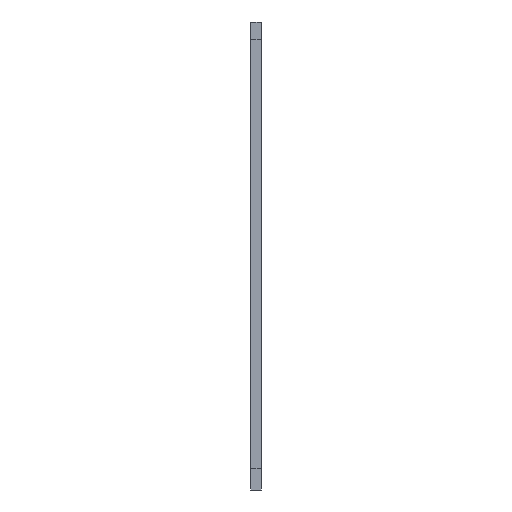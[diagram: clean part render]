
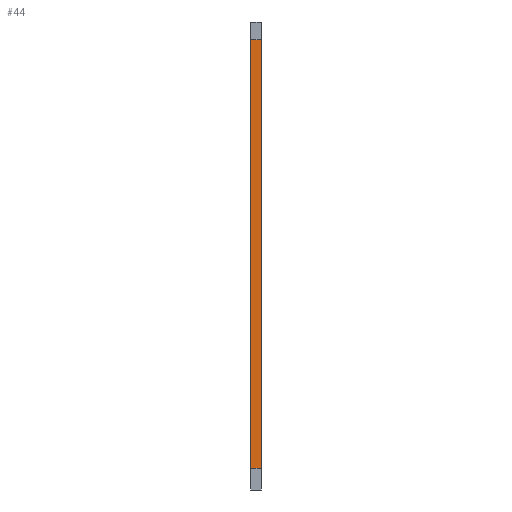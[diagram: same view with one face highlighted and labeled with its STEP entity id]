
A CAD part, left-side view. The second image highlights one B-rep face of the part: STEP entity #44.
In plain terms, the highlighted planar face has unit normal (-1, 0, 0).
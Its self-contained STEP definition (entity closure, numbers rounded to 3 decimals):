
#44=ADVANCED_FACE('',(#64),#664,.T.);
#64=FACE_OUTER_BOUND('',#84,.T.);
#84=EDGE_LOOP('',(#139,#140,#141,#142));
#139=ORIENTED_EDGE('',*,*,#441,.F.);
#140=ORIENTED_EDGE('',*,*,#452,.F.);
#141=ORIENTED_EDGE('',*,*,#445,.F.);
#142=ORIENTED_EDGE('',*,*,#454,.F.);
#204=PCURVE('',#657,#300);
#208=PCURVE('',#658,#304);
#219=PCURVE('',#660,#315);
#229=PCURVE('',#662,#325);
#235=PCURVE('',#664,#331);
#236=PCURVE('',#664,#332);
#237=PCURVE('',#664,#333);
#238=PCURVE('',#664,#334);
#300=DEFINITIONAL_REPRESENTATION('',(#503),#1082);
#304=DEFINITIONAL_REPRESENTATION('',(#511),#1082);
#315=DEFINITIONAL_REPRESENTATION('',(#529),#1082);
#325=DEFINITIONAL_REPRESENTATION('',(#541),#1082);
#331=DEFINITIONAL_REPRESENTATION('',(#547),#1082);
#332=DEFINITIONAL_REPRESENTATION('',(#548),#1082);
#333=DEFINITIONAL_REPRESENTATION('',(#549),#1082);
#334=DEFINITIONAL_REPRESENTATION('',(#550),#1082);
#393=SURFACE_CURVE('',#502,(#204,#235),.PCURVE_S1.);
#397=SURFACE_CURVE('',#510,(#208,#237),.PCURVE_S1.);
#404=SURFACE_CURVE('',#528,(#219,#236),.PCURVE_S1.);
#406=SURFACE_CURVE('',#540,(#229,#238),.PCURVE_S1.);
#441=EDGE_CURVE('',#627,#634,#393,.T.);
#445=EDGE_CURVE('',#633,#628,#397,.T.);
#452=EDGE_CURVE('',#628,#627,#404,.T.);
#454=EDGE_CURVE('',#634,#633,#406,.T.);
#502=B_SPLINE_CURVE_WITH_KNOTS('',1,(#813,#814),.UNSPECIFIED.,.F.,.F.,(2,
2),(1417.038,1560.754),.UNSPECIFIED.);
#503=B_SPLINE_CURVE_WITH_KNOTS('',1,(#815,#816),.UNSPECIFIED.,.F.,.F.,(2,
2),(1417.038,1560.754),.UNSPECIFIED.);
#510=B_SPLINE_CURVE_WITH_KNOTS('',1,(#829,#830),.UNSPECIFIED.,.F.,.F.,(2,
2),(-1560.754,-1417.038),.UNSPECIFIED.);
#511=B_SPLINE_CURVE_WITH_KNOTS('',1,(#831,#832),.UNSPECIFIED.,.F.,.F.,(2,
2),(-1560.754,-1417.038),.UNSPECIFIED.);
#528=B_SPLINE_CURVE_WITH_KNOTS('',1,(#865,#866),.UNSPECIFIED.,.F.,.F.,(2,
2),(-3.,0.),.UNSPECIFIED.);
#529=B_SPLINE_CURVE_WITH_KNOTS('',1,(#867,#868),.UNSPECIFIED.,.F.,.F.,(2,
2),(-3.,0.),.UNSPECIFIED.);
#540=B_SPLINE_CURVE_WITH_KNOTS('',1,(#889,#890),.UNSPECIFIED.,.F.,.F.,(2,
2),(0.,3.),.UNSPECIFIED.);
#541=B_SPLINE_CURVE_WITH_KNOTS('',1,(#891,#892),.UNSPECIFIED.,.F.,.F.,(2,
2),(0.,3.),.UNSPECIFIED.);
#547=B_SPLINE_CURVE_WITH_KNOTS('',1,(#903,#904),.UNSPECIFIED.,.F.,.F.,(2,
2),(1417.038,1560.754),.UNSPECIFIED.);
#548=B_SPLINE_CURVE_WITH_KNOTS('',1,(#905,#906),.UNSPECIFIED.,.F.,.F.,(2,
2),(-3.,0.),.UNSPECIFIED.);
#549=B_SPLINE_CURVE_WITH_KNOTS('',1,(#907,#908),.UNSPECIFIED.,.F.,.F.,(2,
2),(-1560.754,-1417.038),.UNSPECIFIED.);
#550=B_SPLINE_CURVE_WITH_KNOTS('',1,(#909,#910),.UNSPECIFIED.,.F.,.F.,(2,
2),(0.,3.),.UNSPECIFIED.);
#627=VERTEX_POINT('',#755);
#628=VERTEX_POINT('',#756);
#633=VERTEX_POINT('',#761);
#634=VERTEX_POINT('',#762);
#657=PLANE('',#697);
#658=PLANE('',#698);
#660=PLANE('',#700);
#662=PLANE('',#702);
#664=PLANE('',#704);
#697=AXIS2_PLACEMENT_3D('',#743,#720,$);
#698=AXIS2_PLACEMENT_3D('',#744,#721,$);
#700=AXIS2_PLACEMENT_3D('',#746,#723,$);
#702=AXIS2_PLACEMENT_3D('',#748,#725,$);
#704=AXIS2_PLACEMENT_3D('',#750,#727,$);
#720=DIRECTION('',(0.,-1.,0.));
#721=DIRECTION('',(0.,1.,0.));
#723=DIRECTION('',(0.,0.,1.));
#725=DIRECTION('',(0.,0.,-1.));
#727=DIRECTION('',(-1.,0.,0.));
#743=CARTESIAN_POINT('',(-645.,322.,-166.));
#744=CARTESIAN_POINT('',(-645.,325.,-166.));
#746=CARTESIAN_POINT('',(-810.,322.,-41.));
#748=CARTESIAN_POINT('',(-815.,322.,-160.));
#750=CARTESIAN_POINT('',(-815.,322.,-166.));
#755=CARTESIAN_POINT('',(-815.,322.,-41.));
#756=CARTESIAN_POINT('',(-815.,325.,-41.));
#761=CARTESIAN_POINT('',(-815.,325.,-160.));
#762=CARTESIAN_POINT('',(-815.,322.,-160.));
#813=CARTESIAN_POINT('',(-815.,322.,-41.));
#814=CARTESIAN_POINT('',(-815.,322.,-160.));
#815=CARTESIAN_POINT('',(125.,0.));
#816=CARTESIAN_POINT('',(6.,0.));
#829=CARTESIAN_POINT('',(-815.,325.,-160.));
#830=CARTESIAN_POINT('',(-815.,325.,-41.));
#831=CARTESIAN_POINT('',(0.,6.));
#832=CARTESIAN_POINT('',(0.,125.));
#865=CARTESIAN_POINT('',(-815.,325.,-41.));
#866=CARTESIAN_POINT('',(-815.,322.,-41.));
#867=CARTESIAN_POINT('',(3.,0.));
#868=CARTESIAN_POINT('',(0.,0.));
#889=CARTESIAN_POINT('',(-815.,322.,-160.));
#890=CARTESIAN_POINT('',(-815.,325.,-160.));
#891=CARTESIAN_POINT('',(0.,-16.));
#892=CARTESIAN_POINT('',(3.,-16.));
#903=CARTESIAN_POINT('',(-1417.038,0.));
#904=CARTESIAN_POINT('',(-1560.754,0.));
#905=CARTESIAN_POINT('',(-1417.038,3.));
#906=CARTESIAN_POINT('',(-1417.038,0.));
#907=CARTESIAN_POINT('',(-1560.754,3.));
#908=CARTESIAN_POINT('',(-1417.038,3.));
#909=CARTESIAN_POINT('',(-1560.754,0.));
#910=CARTESIAN_POINT('',(-1560.754,3.));
#1082=(
GEOMETRIC_REPRESENTATION_CONTEXT(2)
PARAMETRIC_REPRESENTATION_CONTEXT()
REPRESENTATION_CONTEXT('pspace','')
);
